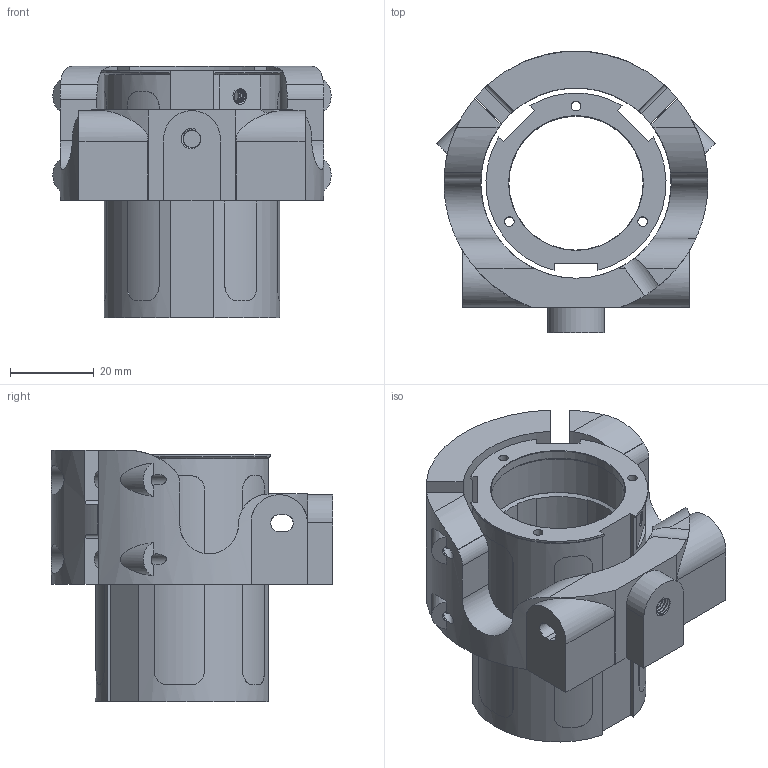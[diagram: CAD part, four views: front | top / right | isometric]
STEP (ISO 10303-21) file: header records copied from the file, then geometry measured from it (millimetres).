
FILE_DESCRIPTION(/* description */ (''),/* implementation_level */ '2;1');
FILE_NAME(/* name */ 'porc v13.step',/* time_stamp */ '2024-01-03T18:32:41+01:00',/* author */ (''),/* organization */ (''),/* preprocessor_version */ 'ST-DEVELOPER v20',/* originating_system */ 'Autodesk Translation Framework v12.14.0.127',/* authorisation */ '');
FILE_SCHEMA (('AUTOMOTIVE_DESIGN { 1 0 10303 214 3 1 1 }'));
Products named in the file (1): porc
Bounding box: 66.41 x 67.22 x 60 mm (x, y, z)
Volume: 64908.3 mm3; surface area: 32442.6 mm2
Topology: 3 solids, 3 shells, 1003 faces, 2949 edges, 1965 vertices
Faces by surface type: bspline 407, cylinder 348, plane 242, cone 6
Full cylindrical faces by diameter (mm): 2.3 x3, 2.529 x2, 3.332 x3, 4.109 x2, 4.234 x6, 4.3 x4, 5.12 x6, 7 x4, 32.05 x2, 33.521 x1
Entity records: 120754 total; most frequent: CARTESIAN_POINT 98491, ORIENTED_EDGE 5898, EDGE_CURVE 2949, DIRECTION 2546, VERTEX_POINT 1965, B_SPLINE_CURVE_WITH_KNOTS 1744, EDGE_LOOP 1048, LINE 1046
